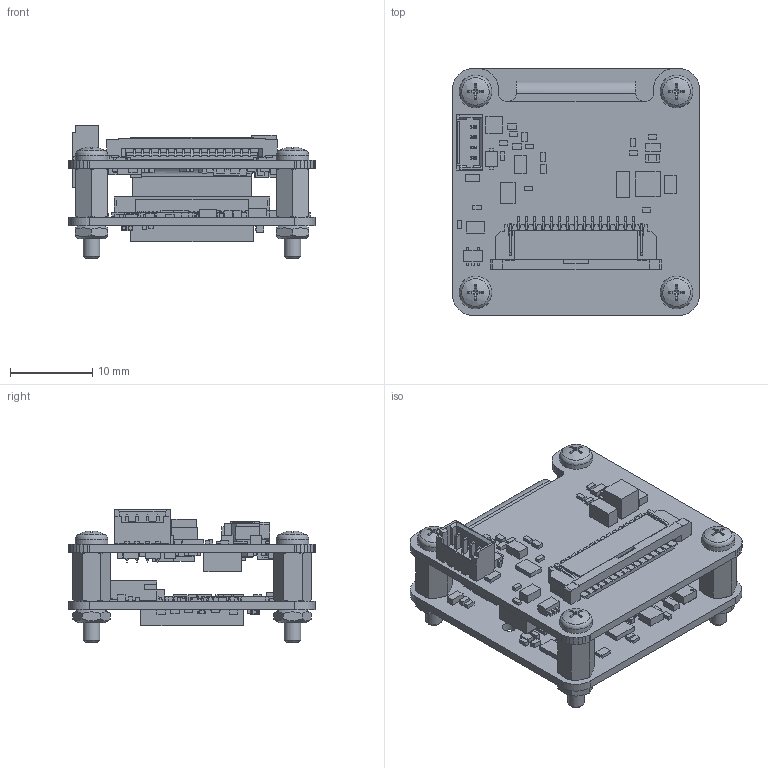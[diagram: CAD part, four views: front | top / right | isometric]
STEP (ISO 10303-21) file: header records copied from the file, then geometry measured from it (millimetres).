
FILE_DESCRIPTION(/* description */ ('289-20-1-07-00 (AX-Modul-R120_IMX568-R111)'),/* implementation_level */ '2;1');
FILE_NAME(/* name */ 'D:\HiDrive\1_Konstruktion\1_KUNDEN\TIS\289-20_MIPI-Dokumentation\KundenStepModell (KSM)\289-20-1_MIPI-AX-Modul (Kombi_CSI2, JetsonNano - Sensorb)\KSM_289-20-1-07-00_AX-R120_IMX568-R111.stp',/* time_stamp */ '2024-03-14T19:23:20+01:00',/* author */ ('khw'),/* organization */ ('TIS, Bremen-Germany'),/* preprocessor_version */ 'ST-DEVELOPER v18.1',/* originating_system */ 'Autodesk Inventor 2021',/* authorisation */ '');
FILE_SCHEMA (('AUTOMOTIVE_DESIGN { 1 0 10303 214 3 1 1 }'));
Products named in the file (6): 289-20-1-07-00_AX-R120_IMX568-R111; ISO 4032 - M2; ISO 7045 - M2 x 4 - 4.8 - H; Sensor_IMX568_MIPI_HB_R0111; TISMIPI_JetsonNano_Adapter_folded_R1-20; Distanzbolzen-IA-M2x6_0100018_SIBALCO
Assembly tree (14 placements, depth 2):
  289-20-1-07-00_AX-R120_IMX568-R111
    ISO 4032 - M2  x4
    ISO 7045 - M2 x 4 - 4.8 - H  x4
    Sensor_IMX568_MIPI_HB_R0111
    TISMIPI_JetsonNano_Adapter_folded_R1-20
    Distanzbolzen-IA-M2x6_0100018_SIBALCO  x4
Bounding box: 30.1 x 30.1 x 16.21 mm (x, y, z)
Volume: 3345.6 mm3; surface area: 7469.2 mm2
Topology: 45 solids, 45 shells, 5214 faces, 14108 edges, 8833 vertices
Faces by surface type: plane 3965, cylinder 684, sphere 216, cone 124, bspline 116, torus 109
Full cylindrical faces by diameter (mm): 0.318 x1, 0.5 x5, 1.4 x4, 1.567 x8, 1.7 x2, 1.783 x4, 2 x8, 2.1 x8
Entity records: 164670 total; most frequent: CARTESIAN_POINT 33963, ORIENTED_EDGE 26884, DIRECTION 24279, EDGE_CURVE 13442, LINE 11297, VECTOR 11297, VERTEX_POINT 8509, AXIS2_PLACEMENT_3D 6491
